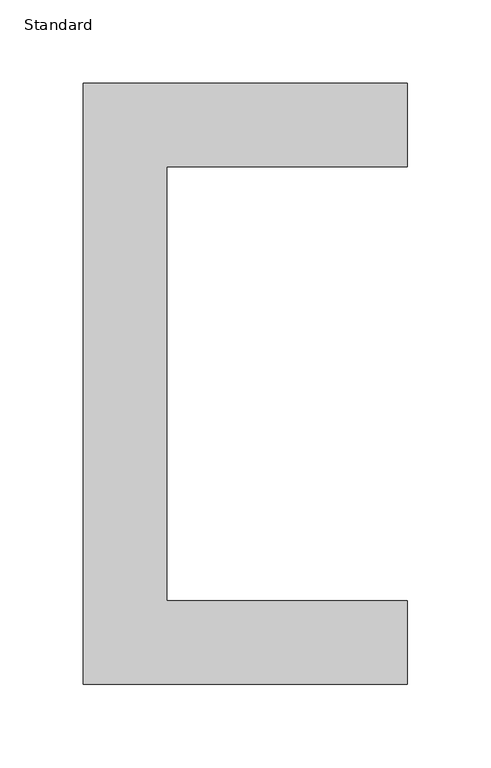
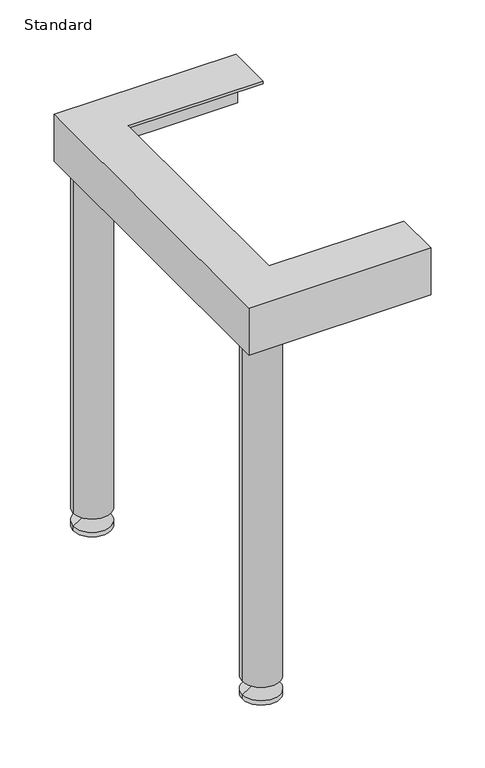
"""IFC4 building model written with IfcOpenShell, lengths in millimetres: furniture geometry, X_Bench-Foot-Duracube-Player Wall Assembly : Standard."""

from ifc_helpers import new_model, si_unit, point, frame, frame_2d, origin, place, context, project, spatial, polyline, circle_curve, trimmed, segment, composite_curve, outline, extrude, faceted_brep, source, transform, mapped, element, save
from ifc_brep_helpers import plane_surface, cylinder_surface, revolved_surface, advanced_brep


def standard_1d1dc8e2(model_context):
    return source(origin(), model_context, "Body", "SolidModel", [
        advanced_brep(
        [(44.9503264, 23.75, 20.0), (40.9503264, 23.75, 20.0), (36.9503264, 23.75, 20.0), (44.9503264, 23.75, 15.0), (36.9503264, 23.75, 15.0), (60.9503264, 23.75, 5.0), (20.9503264, 23.75, 5.0), (60.9503264, 23.75, 0.0), (20.9503264, 23.75, 0.0), (40.9503264, 23.75, 0.0)],
        [
            (0, 1),
            (1, 2),
            (2, 0, circle_curve(frame((40.9503264, 23.75, 20.0), z_axis=(0.0, 0.0, 1.0), x_axis=(-1.0, 0.0, 0.0)), 4.0)),
            (0, 2, circle_curve(frame((40.9503264, 23.75, 20.0), z_axis=(0.0, 0.0, 1.0), x_axis=(-1.0, 0.0, 0.0)), 4.0)),
            (3, 0),
            (2, 4),
            (4, 3, circle_curve(frame((40.9503264, 23.75, 15.0), z_axis=(0.0, 0.0, 1.0), x_axis=(-1.0, 0.0, 0.0)), 4.0)),
            (3, 4, circle_curve(frame((40.9503264, 23.75, 15.0), z_axis=(0.0, 0.0, 1.0), x_axis=(-1.0, 0.0, 0.0)), 4.0)),
            (5, 3),
            (4, 6),
            (6, 5, circle_curve(frame((40.9503264, 23.75, 5.0), z_axis=(0.0, 0.0, 1.0), x_axis=(-1.0, 0.0, 0.0)), 20.0)),
            (5, 6, circle_curve(frame((40.9503264, 23.75, 5.0), z_axis=(0.0, 0.0, 1.0), x_axis=(-1.0, 0.0, 0.0)), 20.0)),
            (7, 5),
            (6, 8),
            (8, 7, circle_curve(frame((40.9503264, 23.75, 0.0), z_axis=(0.0, 0.0, 1.0), x_axis=(-1.0, 0.0, 0.0)), 20.0)),
            (7, 8, circle_curve(frame((40.9503264, 23.75, 0.0), z_axis=(0.0, 0.0, 1.0), x_axis=(-1.0, 0.0, 0.0)), 20.0)),
            (9, 7),
            (8, 9),
        ],
        [
            plane_surface(frame((40.9503264, 23.75, 20.0), z_axis=(0.0, 0.0, 1.0), x_axis=(-1.0, 0.0, 0.0))),
            cylinder_surface(frame((40.9503264, 23.75, 0.0), z_axis=(0.0, 0.0, -1.0), x_axis=(-1.0, 0.0, 0.0)), 4.0),
            revolved_surface(polyline([(36.9503264, 23.75, 15.0), (20.9503264, 23.75, 5.0)]), (40.9503264, 23.75, 0.0), (0.0, 0.0, -1.0)),
            cylinder_surface(frame((40.9503264, 23.75, 0.0), z_axis=(0.0, 0.0, -1.0), x_axis=(-1.0, 0.0, 0.0)), 20.0),
            plane_surface(frame((40.9503264, 23.75, 0.0), z_axis=(0.0, 0.0, -1.0), x_axis=(-1.0, 0.0, 0.0))),
        ],
        [
            (0, [[1, 2, 3]]),
            (0, [[-2, -1, 4]]),
            (1, [[5, -3, 6, 7]]),
            (1, [[-6, -4, -5, 8]]),
            (2, [[9, -7, 10, 11]]),
            (2, [[-10, -8, -9, 12]]),
            (3, [[13, -11, 14, 15]]),
            (3, [[-14, -12, -13, 16]]),
            (4, [[17, -15, 18]]),
            (4, [[-18, -16, -17]]),
        ],
    ),
        advanced_brep(
        [(44.9503264, 336.25, 20.0), (40.9503264, 336.25, 20.0), (36.9503264, 336.25, 20.0), (44.9503264, 336.25, 15.0), (36.9503264, 336.25, 15.0), (60.9503264, 336.25, 5.0), (20.9503264, 336.25, 5.0), (60.9503264, 336.25, 0.0), (20.9503264, 336.25, 0.0), (40.9503264, 336.25, 0.0)],
        [
            (0, 1),
            (1, 2),
            (2, 0, circle_curve(frame((40.9503264, 336.25, 20.0), z_axis=(0.0, 0.0, 1.0), x_axis=(-1.0, 0.0, 0.0)), 4.0)),
            (0, 2, circle_curve(frame((40.9503264, 336.25, 20.0), z_axis=(0.0, 0.0, 1.0), x_axis=(-1.0, 0.0, 0.0)), 4.0)),
            (3, 0),
            (2, 4),
            (4, 3, circle_curve(frame((40.9503264, 336.25, 15.0), z_axis=(0.0, 0.0, 1.0), x_axis=(-1.0, 0.0, 0.0)), 4.0)),
            (3, 4, circle_curve(frame((40.9503264, 336.25, 15.0), z_axis=(0.0, 0.0, 1.0), x_axis=(-1.0, 0.0, 0.0)), 4.0)),
            (5, 3),
            (4, 6),
            (6, 5, circle_curve(frame((40.9503264, 336.25, 5.0), z_axis=(0.0, 0.0, 1.0), x_axis=(-1.0, 0.0, 0.0)), 20.0)),
            (5, 6, circle_curve(frame((40.9503264, 336.25, 5.0), z_axis=(0.0, 0.0, 1.0), x_axis=(-1.0, 0.0, 0.0)), 20.0)),
            (7, 5),
            (6, 8),
            (8, 7, circle_curve(frame((40.9503264, 336.25, 0.0), z_axis=(0.0, 0.0, 1.0), x_axis=(-1.0, 0.0, 0.0)), 20.0)),
            (7, 8, circle_curve(frame((40.9503264, 336.25, 0.0), z_axis=(0.0, 0.0, 1.0), x_axis=(-1.0, 0.0, 0.0)), 20.0)),
            (9, 7),
            (8, 9),
        ],
        [
            plane_surface(frame((40.9503264, 336.25, 20.0), z_axis=(0.0, 0.0, 1.0), x_axis=(-1.0, 0.0, 0.0))),
            cylinder_surface(frame((40.9503264, 336.25, 0.0), z_axis=(0.0, 0.0, -1.0), x_axis=(-1.0, 0.0, 0.0)), 4.0),
            revolved_surface(polyline([(36.9503264, 336.25, 15.0), (20.9503264, 336.25, 5.0)]), (40.9503264, 336.25, 0.0), (0.0, 0.0, -1.0)),
            cylinder_surface(frame((40.9503264, 336.25, 0.0), z_axis=(0.0, 0.0, -1.0), x_axis=(-1.0, 0.0, 0.0)), 20.0),
            plane_surface(frame((40.9503264, 336.25, 0.0), z_axis=(0.0, 0.0, -1.0), x_axis=(-1.0, 0.0, 0.0))),
        ],
        [
            (0, [[1, 2, 3]]),
            (0, [[-2, -1, 4]]),
            (1, [[5, -3, 6, 7]]),
            (1, [[-6, -4, -5, 8]]),
            (2, [[9, -7, 10, 11]]),
            (2, [[-10, -8, -9, 12]]),
            (3, [[13, -11, 14, 15]]),
            (3, [[-14, -12, -13, 16]]),
            (4, [[17, -15, 18]]),
            (4, [[-18, -16, -17]]),
        ],
    ),
        extrude(outline(composite_curve([segment(trimmed(circle_curve(frame_2d((40.9503264, 23.75)), 20.0), [point((20.9503264, 23.75))], [point((60.9503264, 23.75))], False, "CARTESIAN"), True, "CONTINUOUS"), segment(trimmed(circle_curve(frame_2d((40.9503264, 23.75)), 20.0), [point((60.9503264, 23.75))], [point((20.9503264, 23.75))], False, "CARTESIAN"), True, "CONTINUOUS")], self_intersect=False)), frame((0.0, 0.0, 20.0), z_axis=(0.0, 0.0, 1.0), x_axis=(1.0, 0.0, 0.0)), (0.0, 0.0, 1.0), 434.0),
        extrude(outline(composite_curve([segment(trimmed(circle_curve(frame_2d((40.9503264, 336.25)), 20.0), [point((20.9503264, 336.25))], [point((60.9503264, 336.25))], False, "CARTESIAN"), True, "CONTINUOUS"), segment(trimmed(circle_curve(frame_2d((40.9503264, 336.25)), 20.0), [point((60.9503264, 336.25))], [point((20.9503264, 336.25))], False, "CARTESIAN"), True, "CONTINUOUS")], self_intersect=False)), frame((0.0, 0.0, 20.0), z_axis=(0.0, 0.0, 1.0), x_axis=(1.0, 0.0, 0.0)), (0.0, 0.0, 1.0), 434.0),
        faceted_brep([(208.2003264, 360.0, 404.0), (208.2003264, 360.0, 457.0), (208.2003264, 310.0, 457.0), (208.2003264, 310.0, 454.0), (208.2003264, 357.0, 454.0), (208.2003264, 357.0, 404.0), (17.2003264, 357.0, 404.0), (17.2003264, 3.0, 404.0), (208.2003264, 3.0, 404.0), (208.2003264, 0.0, 404.0), (14.2003264, 0.0, 404.0), (14.2003264, 360.0, 404.0), (17.2003264, 357.0, 454.0), (64.2003264, 310.0, 454.0), (64.2003264, 50.0, 454.0), (208.2003264, 50.0, 454.0), (208.2003264, 3.0, 454.0), (17.2003264, 3.0, 454.0), (64.2003264, 310.0, 457.0), (14.2003264, 360.0, 457.0), (14.2003264, 0.0, 457.0), (208.2003264, 0.0, 457.0), (208.2003264, 50.0, 457.0), (64.2003264, 50.0, 457.0)], [[[0, 1, 2, 3, 4, 5]], [[5, 6, 7, 8, 9, 10, 11, 0]], [[4, 12, 6, 5]], [[3, 13, 14, 15, 16, 17, 12, 4]], [[2, 18, 13, 3]], [[1, 19, 20, 21, 22, 23, 18, 2]], [[0, 11, 19, 1]], [[11, 10, 20, 19]], [[10, 9, 21, 20]], [[9, 8, 16, 15, 22, 21]], [[17, 16, 8, 7]], [[12, 17, 7, 6]], [[23, 22, 15, 14]], [[18, 23, 14, 13]]]),
    ])


if __name__ == "__main__":
    model = new_model("IFC4")
    model_context = context("Model", 3, world=origin())
    ifc_project = project(units=[si_unit("LENGTHUNIT", "METRE", prefix="MILLI")], contexts=[model_context])
    site = spatial("IfcSite", under=ifc_project)
    building = spatial("IfcBuilding", under=site)
    placement = place(None, origin())
    standard_shape = standard_1d1dc8e2(model_context)
    element("IfcFurniture", 1, ObjectType="X_Bench-Foot-Duracube-Player Wall Assembly : Standard", at=placement, inside=building, context=model_context, shape_type="MappedRepresentation", body=[
        mapped(standard_shape, transform((0.0, 0.0, 0.0), x_axis=(1.0, 0.0, 0.0), y_axis=(0.0, 1.0, 0.0), z_axis=(0.0, 0.0, 1.0))),
    ])
    save(model, "model.ifc")
